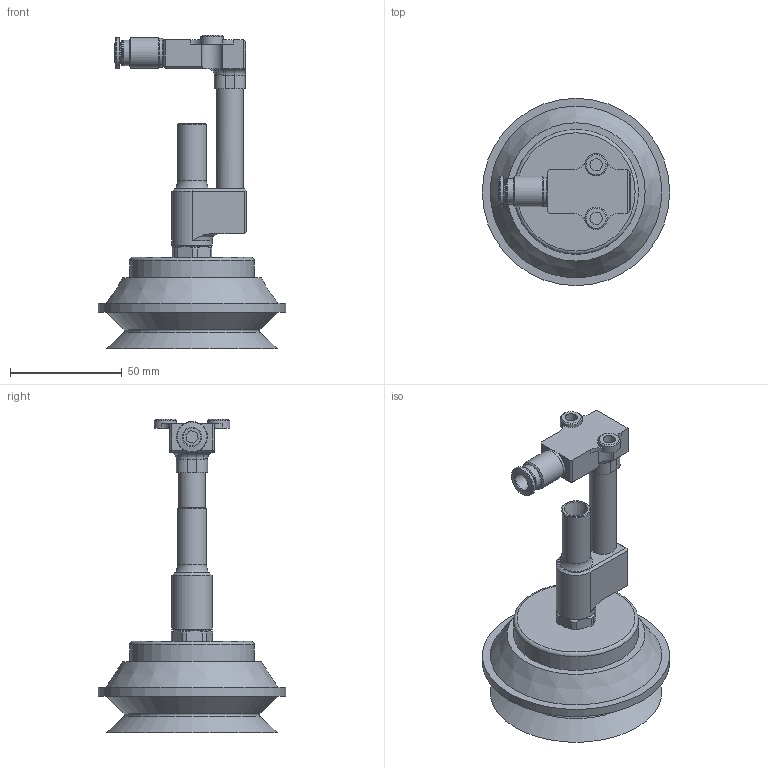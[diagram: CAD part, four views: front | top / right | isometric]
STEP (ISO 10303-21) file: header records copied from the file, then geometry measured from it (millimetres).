
FILE_DESCRIPTION(/* description */ ('Unknown'),/* implementation_level */ '2;1');
FILE_NAME(/* name */ 'HDHF Dm extern mit Adapter und 78er Sauger',/* time_stamp */ '2025-06-13T08:13:31+02:00',/* author */ ('S.Brockfeld'),/* organization */ ('DIL e.V.'),/* preprocessor_version */ 'ST-DEVELOPER v18.104',/* originating_system */ 'Solid Edge',/* authorisation */ 'Unknown');
FILE_SCHEMA (('AUTOMOTIVE_DESIGN {1 0 10303 214 3 1 1}'));
Length unit declared in the file: millimetre
Products named in the file (1): HDHF Dm extern mit Adapter und 78er Sauger
Bounding box: 84 x 84 x 140.7 mm (x, y, z)
Volume: 86750.2 mm3; surface area: 40542 mm2
Topology: 1 solids, 2 shells, 194 faces, 468 edges, 292 vertices
Faces by surface type: plane 90, cylinder 56, cone 31, torus 15, bspline 2
Full cylindrical faces by diameter (mm): 5.5 x2, 8 x1, 8.566 x2, 9.4 x1, 10 x7, 11.4 x2, 12 x1, 12.4 x2, 13 x2, 13.157 x2, 13.7 x1, 13.8 x1, 14 x1, 15 x1, 17.5 x2, 18 x1, 56 x1, 84 x1
Entity records: 7075 total; most frequent: CARTESIAN_POINT 1365, DIRECTION 931, ORIENTED_EDGE 804, EDGE_CURVE 402, AXIS2_PLACEMENT_3D 379, VERTEX_POINT 280, EDGE_LOOP 280, FACE_BOUND 280
